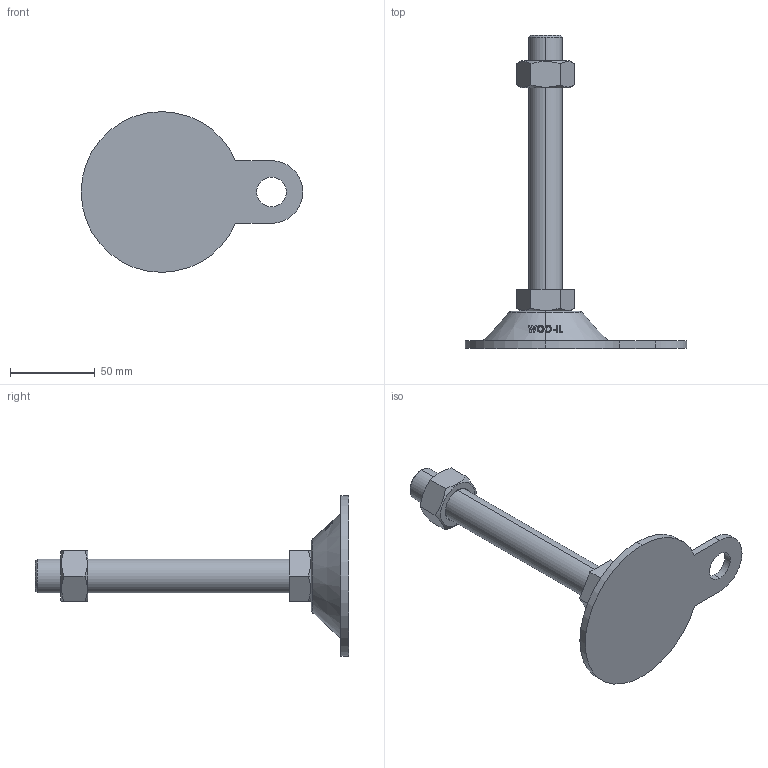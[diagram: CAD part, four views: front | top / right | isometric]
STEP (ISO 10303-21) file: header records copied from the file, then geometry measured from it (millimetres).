
FILE_DESCRIPTION (( 'STEP AP214' ), '1' );
FILE_NAME ('ABL95-M20-150.step', '2021-02-05T04:21:35', ( '' ), ( '' ), 'SwSTEP 2.0', 'SolidWorks 2019', '' );
FILE_SCHEMA (( 'AUTOMOTIVE_DESIGN' ));
Length unit declared in the file: millimetre
Products named in the file (2): ABL95-M20-150
Bounding box: 131 x 185 x 95 mm (x, y, z)
Volume: 148142.6 mm3; surface area: 33871.5 mm2
Topology: 2 solids, 2 shells, 128 faces, 332 edges, 218 vertices
Faces by surface type: plane 48, cylinder 38, cone 22, bspline 18, torus 2
Entity records: 5494 total; most frequent: CARTESIAN_POINT 2574, ORIENTED_EDGE 664, DIRECTION 474, EDGE_CURVE 332, VERTEX_POINT 218, AXIS2_PLACEMENT_3D 176, B_SPLINE_CURVE_WITH_KNOTS 146, EDGE_LOOP 142
